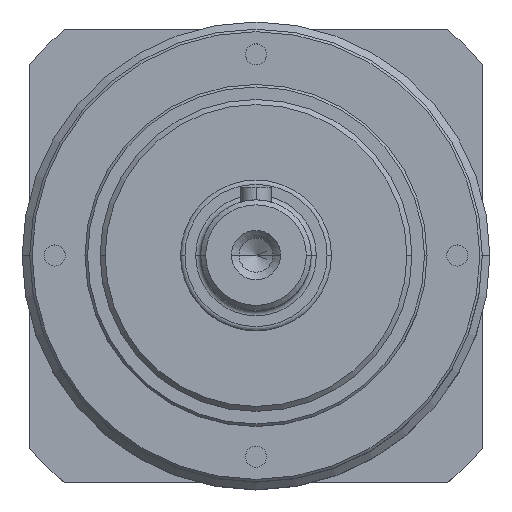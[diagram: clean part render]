
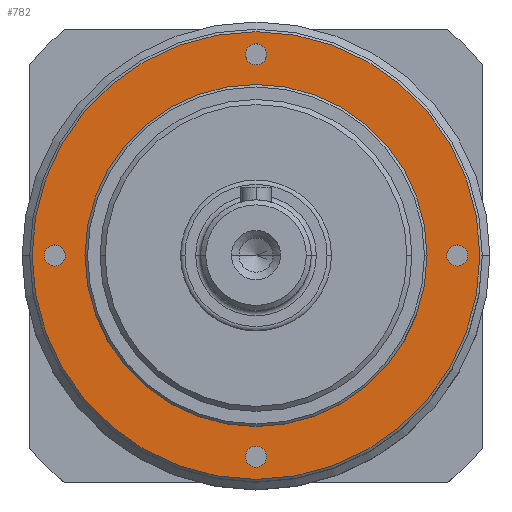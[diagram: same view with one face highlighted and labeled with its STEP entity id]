
A CAD part, top view. The second image highlights one B-rep face of the part: STEP entity #782.
In plain terms, the highlighted planar face has unit normal (0, 0, 1).
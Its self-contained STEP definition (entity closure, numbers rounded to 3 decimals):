
#31 = DIRECTION ( 'NONE',  ( 0., 0., 1. ) ) ;
#74 = VERTEX_POINT ( 'NONE', #482 ) ;
#77 = ORIENTED_EDGE ( 'NONE', *, *, #542, .T. ) ;
#122 = AXIS2_PLACEMENT_3D ( 'NONE', #652, #3032, #2300 ) ;
#158 = VERTEX_POINT ( 'NONE', #837 ) ;
#173 = EDGE_CURVE ( 'NONE', #460, #2790, #2361, .T. ) ;
#177 = DIRECTION ( 'NONE',  ( 0., 0., 1. ) ) ;
#186 = CARTESIAN_POINT ( 'NONE',  ( 0., 0., 18.5 ) ) ;
#213 = VERTEX_POINT ( 'NONE', #1254 ) ;
#225 = ORIENTED_EDGE ( 'NONE', *, *, #2275, .F. ) ;
#241 = DIRECTION ( 'NONE',  ( 0., 0., 1. ) ) ;
#286 = AXIS2_PLACEMENT_3D ( 'NONE', #2142, #1451, #2886 ) ;
#346 = ORIENTED_EDGE ( 'NONE', *, *, #1227, .F. ) ;
#373 = DIRECTION ( 'NONE',  ( 1., 0., 0. ) ) ;
#380 = CARTESIAN_POINT ( 'NONE',  ( 40., 0., 18.5 ) ) ;
#383 = DIRECTION ( 'NONE',  ( 0., 0., 1. ) ) ;
#394 = DIRECTION ( 'NONE',  ( 1., 0., 0. ) ) ;
#401 = EDGE_LOOP ( 'NONE', ( #472, #657 ) ) ;
#412 = CARTESIAN_POINT ( 'NONE',  ( 0., -40., 18.5 ) ) ;
#460 = VERTEX_POINT ( 'NONE', #1020 ) ;
#472 = ORIENTED_EDGE ( 'NONE', *, *, #3033, .F. ) ;
#482 = CARTESIAN_POINT ( 'NONE',  ( -2.1, -40., 18.5 ) ) ;
#536 = DIRECTION ( 'NONE',  ( 0., 0., 1. ) ) ;
#542 = EDGE_CURVE ( 'NONE', #1250, #662, #2326, .T. ) ;
#595 = FACE_BOUND ( 'NONE', #2286, .T. ) ;
#631 = CIRCLE ( 'NONE', #1482, 44.5 ) ;
#652 = CARTESIAN_POINT ( 'NONE',  ( 0., -40., 18.5 ) ) ;
#657 = ORIENTED_EDGE ( 'NONE', *, *, #2577, .F. ) ;
#662 = VERTEX_POINT ( 'NONE', #1305 ) ;
#696 = DIRECTION ( 'NONE',  ( 0., 0., 1. ) ) ;
#721 = ORIENTED_EDGE ( 'NONE', *, *, #2184, .F. ) ;
#782 = ADVANCED_FACE ( 'NONE', ( #595, #1694, #2653, #2033, #1394, #1325 ), #2133, .T. ) ;
#804 = DIRECTION ( 'NONE',  ( 1., 0., 0. ) ) ;
#837 = CARTESIAN_POINT ( 'NONE',  ( -34., 0., 18.5 ) ) ;
#912 = CARTESIAN_POINT ( 'NONE',  ( 34., 0., 18.5 ) ) ;
#917 = DIRECTION ( 'NONE',  ( 1., 0., 0. ) ) ;
#944 = DIRECTION ( 'NONE',  ( 1., 0., 0. ) ) ;
#945 = VERTEX_POINT ( 'NONE', #1939 ) ;
#1020 = CARTESIAN_POINT ( 'NONE',  ( -42.1, 0., 18.5 ) ) ;
#1065 = ORIENTED_EDGE ( 'NONE', *, *, #2802, .F. ) ;
#1097 = EDGE_CURVE ( 'NONE', #2039, #1937, #2800, .T. ) ;
#1117 = AXIS2_PLACEMENT_3D ( 'NONE', #1436, #31, #1934 ) ;
#1123 = AXIS2_PLACEMENT_3D ( 'NONE', #2400, #536, #2630 ) ;
#1129 = CARTESIAN_POINT ( 'NONE',  ( 0., 0., 18.5 ) ) ;
#1130 = ORIENTED_EDGE ( 'NONE', *, *, #2345, .F. ) ;
#1172 = DIRECTION ( 'NONE',  ( 1., 0., 0. ) ) ;
#1227 = EDGE_CURVE ( 'NONE', #158, #1716, #3002, .T. ) ;
#1250 = VERTEX_POINT ( 'NONE', #1372 ) ;
#1251 = EDGE_CURVE ( 'NONE', #1716, #158, #2131, .T. ) ;
#1254 = CARTESIAN_POINT ( 'NONE',  ( 37.9, 0., 18.5 ) ) ;
#1305 = CARTESIAN_POINT ( 'NONE',  ( 44.5, 0., 18.5 ) ) ;
#1325 = FACE_OUTER_BOUND ( 'NONE', #2407, .T. ) ;
#1338 = DIRECTION ( 'NONE',  ( 1., 0., 0. ) ) ;
#1341 = EDGE_CURVE ( 'NONE', #662, #1250, #631, .T. ) ;
#1357 = DIRECTION ( 'NONE',  ( 0., 0., 1. ) ) ;
#1372 = CARTESIAN_POINT ( 'NONE',  ( -44.5, 0., 18.5 ) ) ;
#1394 = FACE_BOUND ( 'NONE', #2827, .T. ) ;
#1436 = CARTESIAN_POINT ( 'NONE',  ( 0., 0., 18.5 ) ) ;
#1451 = DIRECTION ( 'NONE',  ( 0., 0., 1. ) ) ;
#1482 = AXIS2_PLACEMENT_3D ( 'NONE', #1653, #241, #944 ) ;
#1509 = AXIS2_PLACEMENT_3D ( 'NONE', #412, #2312, #1338 ) ;
#1552 = DIRECTION ( 'NONE',  ( 0., 0., 1. ) ) ;
#1653 = CARTESIAN_POINT ( 'NONE',  ( 0., 0., 18.5 ) ) ;
#1694 = FACE_BOUND ( 'NONE', #401, .T. ) ;
#1707 = CARTESIAN_POINT ( 'NONE',  ( 2.1, 40., 18.5 ) ) ;
#1715 = CARTESIAN_POINT ( 'NONE',  ( 2.1, -40., 18.5 ) ) ;
#1716 = VERTEX_POINT ( 'NONE', #912 ) ;
#1783 = CARTESIAN_POINT ( 'NONE',  ( 0., 40., 18.5 ) ) ;
#1805 = AXIS2_PLACEMENT_3D ( 'NONE', #1969, #2206, #804 ) ;
#1836 = ORIENTED_EDGE ( 'NONE', *, *, #1251, .F. ) ;
#1838 = CARTESIAN_POINT ( 'NONE',  ( 0., 0., 18.5 ) ) ;
#1910 = CIRCLE ( 'NONE', #1991, 2.1 ) ;
#1934 = DIRECTION ( 'NONE',  ( 1., 0., 0. ) ) ;
#1937 = VERTEX_POINT ( 'NONE', #1707 ) ;
#1939 = CARTESIAN_POINT ( 'NONE',  ( 42.1, 0., 18.5 ) ) ;
#1969 = CARTESIAN_POINT ( 'NONE',  ( -40., 0., 18.5 ) ) ;
#1984 = CIRCLE ( 'NONE', #2574, 2.1 ) ;
#1991 = AXIS2_PLACEMENT_3D ( 'NONE', #2805, #696, #1172 ) ;
#2033 = FACE_BOUND ( 'NONE', #2087, .T. ) ;
#2039 = VERTEX_POINT ( 'NONE', #2485 ) ;
#2078 = EDGE_LOOP ( 'NONE', ( #721, #1065 ) ) ;
#2087 = EDGE_LOOP ( 'NONE', ( #225, #2946 ) ) ;
#2131 = CIRCLE ( 'NONE', #2986, 34. ) ;
#2133 = PLANE ( 'NONE',  #2711 ) ;
#2136 = AXIS2_PLACEMENT_3D ( 'NONE', #1783, #383, #394 ) ;
#2142 = CARTESIAN_POINT ( 'NONE',  ( 0., 40., 18.5 ) ) ;
#2184 = EDGE_CURVE ( 'NONE', #2484, #74, #2541, .T. ) ;
#2206 = DIRECTION ( 'NONE',  ( 0., 0., 1. ) ) ;
#2275 = EDGE_CURVE ( 'NONE', #2790, #460, #1910, .T. ) ;
#2278 = CIRCLE ( 'NONE', #122, 2.1 ) ;
#2286 = EDGE_LOOP ( 'NONE', ( #346, #1836 ) ) ;
#2300 = DIRECTION ( 'NONE',  ( 1., 0., 0. ) ) ;
#2305 = ORIENTED_EDGE ( 'NONE', *, *, #1341, .T. ) ;
#2312 = DIRECTION ( 'NONE',  ( 0., 0., 1. ) ) ;
#2326 = CIRCLE ( 'NONE', #1117, 44.5 ) ;
#2330 = DIRECTION ( 'NONE',  ( 0., 0., 1. ) ) ;
#2336 = CARTESIAN_POINT ( 'NONE',  ( -37.9, 0., 18.5 ) ) ;
#2345 = EDGE_CURVE ( 'NONE', #1937, #2039, #2388, .T. ) ;
#2361 = CIRCLE ( 'NONE', #1805, 2.1 ) ;
#2388 = CIRCLE ( 'NONE', #286, 2.1 ) ;
#2400 = CARTESIAN_POINT ( 'NONE',  ( 40., 0., 18.5 ) ) ;
#2407 = EDGE_LOOP ( 'NONE', ( #77, #2305 ) ) ;
#2484 = VERTEX_POINT ( 'NONE', #1715 ) ;
#2485 = CARTESIAN_POINT ( 'NONE',  ( -2.1, 40., 18.5 ) ) ;
#2541 = CIRCLE ( 'NONE', #1509, 2.1 ) ;
#2574 = AXIS2_PLACEMENT_3D ( 'NONE', #380, #1552, #373 ) ;
#2577 = EDGE_CURVE ( 'NONE', #213, #945, #1984, .T. ) ;
#2630 = DIRECTION ( 'NONE',  ( 1., 0., 0. ) ) ;
#2652 = AXIS2_PLACEMENT_3D ( 'NONE', #186, #177, #3055 ) ;
#2653 = FACE_BOUND ( 'NONE', #2078, .T. ) ;
#2711 = AXIS2_PLACEMENT_3D ( 'NONE', #1129, #1357, #2779 ) ;
#2779 = DIRECTION ( 'NONE',  ( 1., 0., 0. ) ) ;
#2790 = VERTEX_POINT ( 'NONE', #2336 ) ;
#2800 = CIRCLE ( 'NONE', #2136, 2.1 ) ;
#2802 = EDGE_CURVE ( 'NONE', #74, #2484, #2278, .T. ) ;
#2805 = CARTESIAN_POINT ( 'NONE',  ( -40., 0., 18.5 ) ) ;
#2827 = EDGE_LOOP ( 'NONE', ( #1130, #2863 ) ) ;
#2863 = ORIENTED_EDGE ( 'NONE', *, *, #1097, .F. ) ;
#2886 = DIRECTION ( 'NONE',  ( 1., 0., 0. ) ) ;
#2904 = CIRCLE ( 'NONE', #1123, 2.1 ) ;
#2946 = ORIENTED_EDGE ( 'NONE', *, *, #173, .F. ) ;
#2986 = AXIS2_PLACEMENT_3D ( 'NONE', #1838, #2330, #917 ) ;
#3002 = CIRCLE ( 'NONE', #2652, 34. ) ;
#3032 = DIRECTION ( 'NONE',  ( 0., 0., 1. ) ) ;
#3033 = EDGE_CURVE ( 'NONE', #945, #213, #2904, .T. ) ;
#3055 = DIRECTION ( 'NONE',  ( 1., 0., 0. ) ) ;
